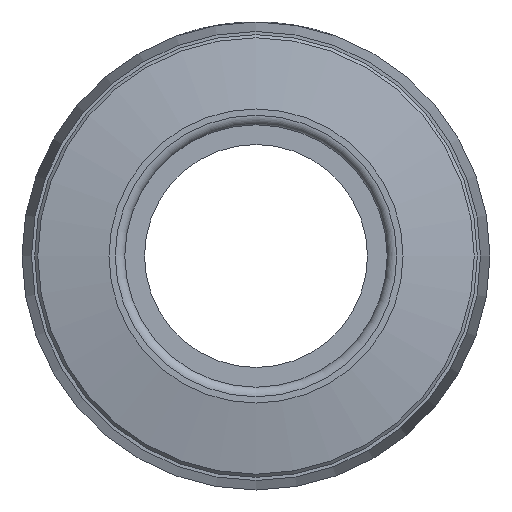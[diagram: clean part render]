
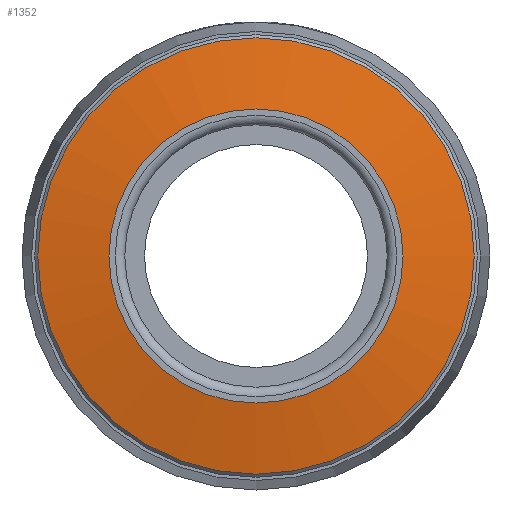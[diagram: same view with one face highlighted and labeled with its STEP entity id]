
A CAD part, left-side view. The second image highlights one B-rep face of the part: STEP entity #1352.
In plain terms, the highlighted conical face has half-angle 79.919 degrees and reference radius 5.775 mm.
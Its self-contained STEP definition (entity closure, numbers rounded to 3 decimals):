
#1318=CARTESIAN_POINT('',(0.,4.65,0.0));
#1319=VERTEX_POINT('',#1318);
#1320=CARTESIAN_POINT('',(0.,0.,0.0));
#1321=DIRECTION('',(1.0,0.,0.0));
#1322=DIRECTION('',(0.,1.0,0.0));
#1323=AXIS2_PLACEMENT_3D('',#1320,#1321,#1322);
#1324=CIRCLE('',#1323,4.65);
#1325=EDGE_CURVE('',#1319,#1319,#1324,.T.);
#1333=CARTESIAN_POINT('',(0.2,0.,0.0));
#1334=DIRECTION('',(1.0,0.,0.0));
#1335=DIRECTION('',(0.,1.0,0.0));
#1336=AXIS2_PLACEMENT_3D('',#1333,#1334,#1335);
#1337=CONICAL_SURFACE('',#1336,5.775,79.919);
#1338=CARTESIAN_POINT('',(0.4,6.9,0.0));
#1339=VERTEX_POINT('',#1338);
#1340=CARTESIAN_POINT('',(0.4,0.,0.0));
#1341=DIRECTION('',(1.0,0.,0.0));
#1342=DIRECTION('',(0.,1.0,0.0));
#1343=AXIS2_PLACEMENT_3D('',#1340,#1341,#1342);
#1344=CIRCLE('',#1343,6.9);
#1345=EDGE_CURVE('',#1339,#1339,#1344,.T.);
#1346=ORIENTED_EDGE('',*,*,#1345,.F.);
#1347=EDGE_LOOP('',(#1346));
#1348=FACE_OUTER_BOUND('',#1347,.T.);
#1349=ORIENTED_EDGE('',*,*,#1325,.T.);
#1350=EDGE_LOOP('',(#1349));
#1351=FACE_BOUND('',#1350,.T.);
#1352=ADVANCED_FACE('',(#1348,#1351),#1337,.T.);
